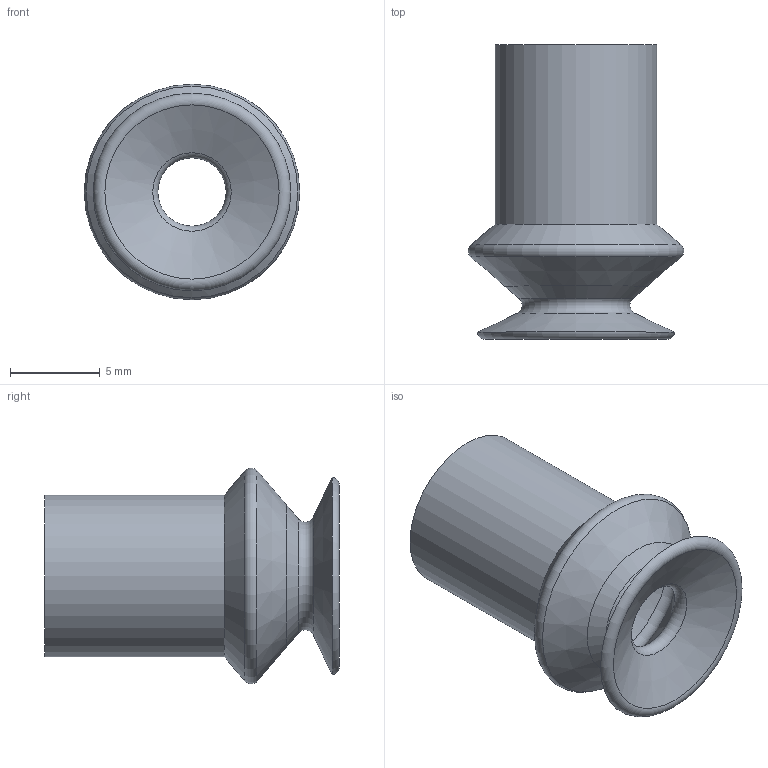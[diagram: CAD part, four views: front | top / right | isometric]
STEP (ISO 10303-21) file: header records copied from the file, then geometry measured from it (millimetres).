
FILE_DESCRIPTION (( 'STEP AP214' ), '1' );
FILE_NAME ('PSB10.STEP', '2021-04-07T13:04:25', ( '' ), ( '' ), 'SwSTEP 2.0', 'SolidWorks 2018', '' );
FILE_SCHEMA (( 'AUTOMOTIVE_DESIGN' ));
Length unit declared in the file: inch
Products named in the file (1): PSB10
Bounding box: 12 x 16.4 x 12 mm (x, y, z)
Volume: 660.5 mm3; surface area: 1027.4 mm2
Topology: 1 solids, 1 shells, 18 faces, 34 edges, 18 vertices
Faces by surface type: cone 8, torus 5, cylinder 3, plane 2
Full cylindrical faces by diameter (mm): 3.8 x2, 9 x1
Entity records: 408 total; most frequent: DIRECTION 74, CARTESIAN_POINT 55, AXIS2_PLACEMENT_3D 37, ORIENTED_EDGE 36, EDGE_LOOP 36, FACE_OUTER_BOUND 26, ADVANCED_FACE 18, CIRCLE 18
